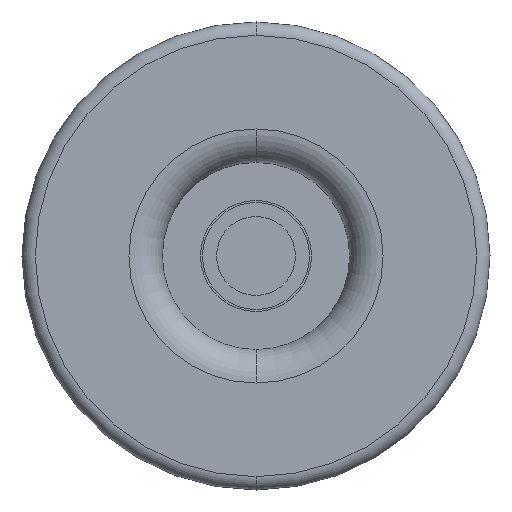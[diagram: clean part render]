
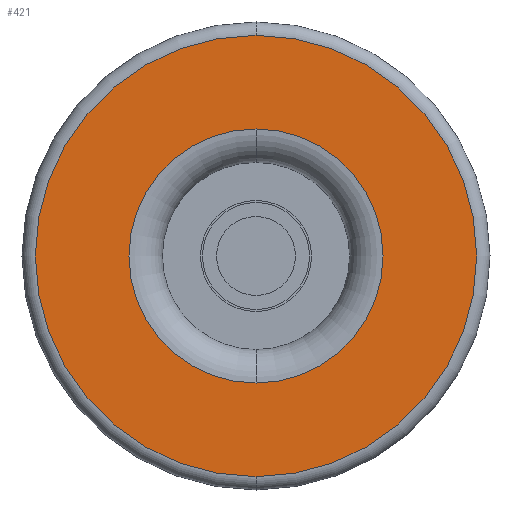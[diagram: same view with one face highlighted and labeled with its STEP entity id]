
A CAD part, front view. The second image highlights one B-rep face of the part: STEP entity #421.
In plain terms, the highlighted planar face has unit normal (0, -1, 0).
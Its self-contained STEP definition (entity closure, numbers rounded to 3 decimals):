
#20 = CIRCLE ( 'NONE', #5024, 16.5 ) ;
#176 = CIRCLE ( 'NONE', #1676, 9.5 ) ;
#226 = DIRECTION ( 'NONE',  ( 0., 0., -1. ) ) ;
#350 = CIRCLE ( 'NONE', #730, 9.5 ) ;
#372 = AXIS2_PLACEMENT_3D ( 'NONE', #5989, #6536, #2965 ) ;
#421 = ADVANCED_FACE ( 'NONE', ( #2206, #3959 ), #3516, .T. ) ;
#730 = AXIS2_PLACEMENT_3D ( 'NONE', #3059, #2524, #2108 ) ;
#788 = EDGE_CURVE ( 'NONE', #3577, #1646, #6288, .T. ) ;
#1069 = VERTEX_POINT ( 'NONE', #5521 ) ;
#1183 = CARTESIAN_POINT ( 'NONE',  ( 0., 0., 9.5 ) ) ;
#1187 = EDGE_CURVE ( 'NONE', #1687, #1069, #350, .T. ) ;
#1225 = DIRECTION ( 'NONE',  ( 0., -1., 0. ) ) ;
#1646 = VERTEX_POINT ( 'NONE', #3777 ) ;
#1676 = AXIS2_PLACEMENT_3D ( 'NONE', #1939, #2015, #5514 ) ;
#1687 = VERTEX_POINT ( 'NONE', #1183 ) ;
#1899 = ORIENTED_EDGE ( 'NONE', *, *, #788, .T. ) ;
#1939 = CARTESIAN_POINT ( 'NONE',  ( 0., 0., 0. ) ) ;
#2015 = DIRECTION ( 'NONE',  ( 0., 1., 0. ) ) ;
#2108 = DIRECTION ( 'NONE',  ( 0., 0., -1. ) ) ;
#2206 = FACE_BOUND ( 'NONE', #6122, .T. ) ;
#2524 = DIRECTION ( 'NONE',  ( 0., 1., 0. ) ) ;
#2729 = EDGE_CURVE ( 'NONE', #1646, #3577, #20, .T. ) ;
#2809 = CARTESIAN_POINT ( 'NONE',  ( 0., 0., 0. ) ) ;
#2965 = DIRECTION ( 'NONE',  ( 0., 0., -1. ) ) ;
#3006 = EDGE_LOOP ( 'NONE', ( #4227, #1899 ) ) ;
#3059 = CARTESIAN_POINT ( 'NONE',  ( 0., 0., 0. ) ) ;
#3516 = PLANE ( 'NONE',  #372 ) ;
#3577 = VERTEX_POINT ( 'NONE', #6428 ) ;
#3777 = CARTESIAN_POINT ( 'NONE',  ( 0., 0., -16.5 ) ) ;
#3959 = FACE_OUTER_BOUND ( 'NONE', #3006, .T. ) ;
#4227 = ORIENTED_EDGE ( 'NONE', *, *, #2729, .T. ) ;
#4731 = AXIS2_PLACEMENT_3D ( 'NONE', #5804, #6319, #226 ) ;
#4861 = ORIENTED_EDGE ( 'NONE', *, *, #1187, .T. ) ;
#4880 = EDGE_CURVE ( 'NONE', #1069, #1687, #176, .T. ) ;
#5024 = AXIS2_PLACEMENT_3D ( 'NONE', #2809, #1225, #5895 ) ;
#5171 = ORIENTED_EDGE ( 'NONE', *, *, #4880, .T. ) ;
#5514 = DIRECTION ( 'NONE',  ( 0., 0., -1. ) ) ;
#5521 = CARTESIAN_POINT ( 'NONE',  ( 0., 0., -9.5 ) ) ;
#5804 = CARTESIAN_POINT ( 'NONE',  ( 0., 0., 0. ) ) ;
#5895 = DIRECTION ( 'NONE',  ( 0., 0., -1. ) ) ;
#5989 = CARTESIAN_POINT ( 'NONE',  ( -7., 0., 0. ) ) ;
#6122 = EDGE_LOOP ( 'NONE', ( #5171, #4861 ) ) ;
#6288 = CIRCLE ( 'NONE', #4731, 16.5 ) ;
#6319 = DIRECTION ( 'NONE',  ( 0., -1., 0. ) ) ;
#6428 = CARTESIAN_POINT ( 'NONE',  ( 0., 0., 16.5 ) ) ;
#6536 = DIRECTION ( 'NONE',  ( 0., -1., 0. ) ) ;
